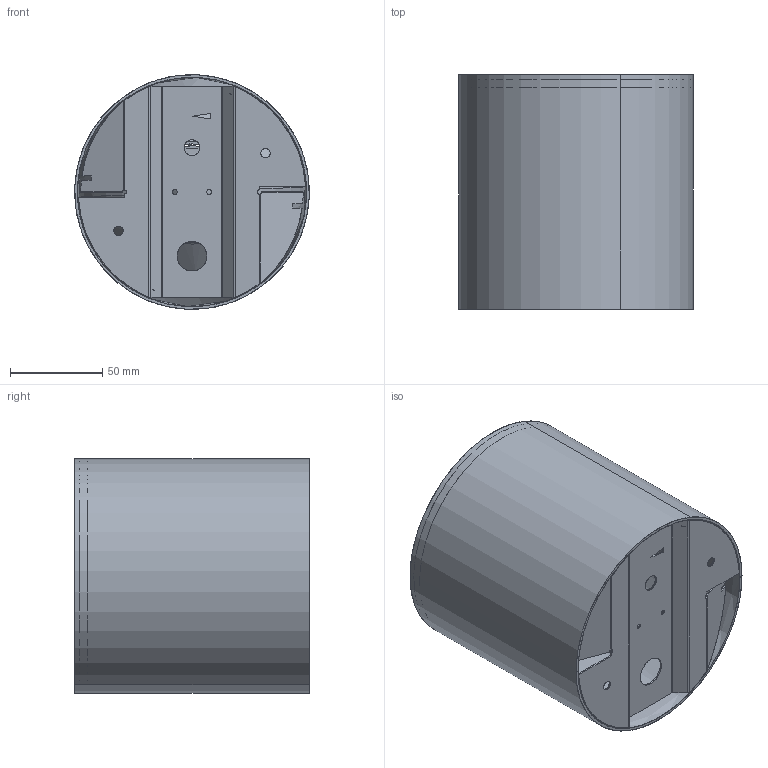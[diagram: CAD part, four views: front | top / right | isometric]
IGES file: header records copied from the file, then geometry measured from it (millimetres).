
Start section: SolidWorks IGES file using analytic representation for surfaces
Global section: file name: F:\GABRYSIA\MODELE 3D\HALO-8196-8195-WWW\HALO-8196-8195.IGS; native system: SolidWorks 2017; preprocessor: SolidWorks 2017; author: Togambi; date: 201023.161857; units: millimetre
Bounding box: 127 x 127 x 127 mm (x, y, z)
Surface area: 184419.7 mm2 (no closed solid volume)
Topology: 0 solids, 0 shells, 304 faces, 4090 edges, 4088 vertices
Faces by surface type: bspline 176, revolution 128
